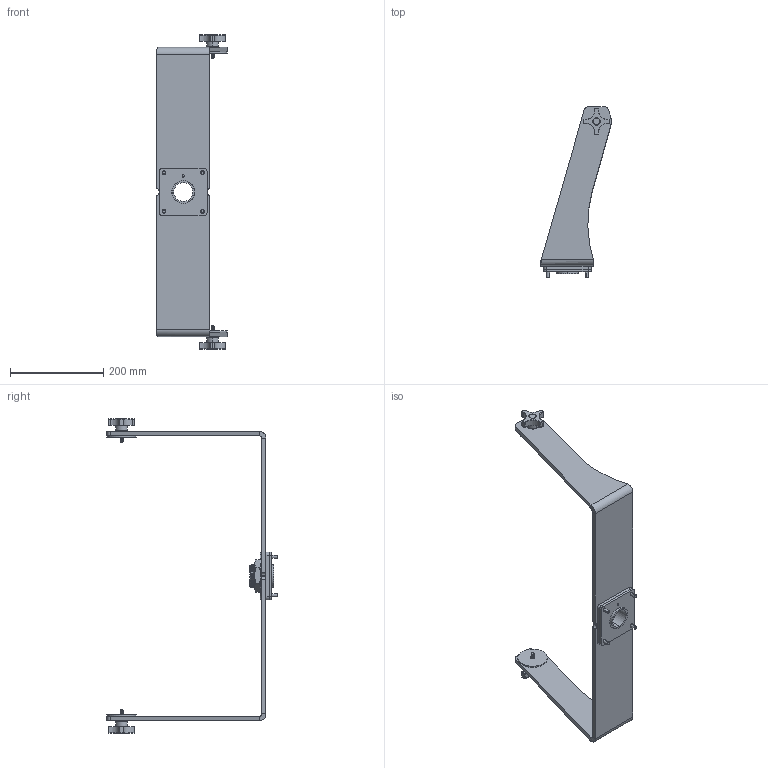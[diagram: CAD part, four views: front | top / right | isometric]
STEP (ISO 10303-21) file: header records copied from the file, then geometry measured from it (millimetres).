
FILE_DESCRIPTION (( 'STEP AP214' ), '1' );
FILE_NAME ('Pedestal and Benchtop Yoke for 23 inch Universal Mount Monitor, YB23.STEP', '2017-07-18T14:27:38', ( '' ), ( '' ), 'SwSTEP 2.0', 'SolidWorks 2017', '' );
FILE_SCHEMA (( 'AUTOMOTIVE_DESIGN' ));
Length unit declared in the file: inch
Products named in the file (12): Knob, 30053; Rubber Washer, 10177; Bushing, 30500; Nut, 30060; Washer, 10143; Screw, 30078_CR-FHMS 0.25-20x0.875x0.875-N; 9157K370_STD-WALL 304-304L SS THRD ONE END PIPE NIPPLE_9157K37; Bench Plate, 10105; 10105; Bearing Plate, 10078; All Yoke Configurations, YBxx_YK23; Pedestal and Benchtop Yoke for 23 inch Universal Mount Monitor, YB23
Assembly tree (17 placements, depth 3):
  Pedestal and Benchtop Yoke for 23 inch Universal Mount Monitor, YB23
    All Yoke Configurations, YBxx_YK23
    Bearing Plate, 10078
    Bench Plate, 10105
      10105
      9157K370_STD-WALL 304-304L SS THRD ONE END PIPE NIPPLE_9157K37
    Screw, 30078_CR-FHMS 0.25-20x0.875x0.875-N  x4
    Washer, 10143
    Nut, 30060
    Bushing, 30500  x2
    Rubber Washer, 10177  x2
    Knob, 30053  x2
Bounding box: 151.52 x 365.2 x 673.15 mm (x, y, z)
Volume: 1313518.1 mm3; surface area: 368031.8 mm2
Topology: 16 solids, 16 shells, 808 faces, 1799 edges, 1020 vertices
Faces by surface type: cylinder 344, cone 239, plane 128, torus 48, sphere 40, bspline 9
Entity records: 24007 total; most frequent: CARTESIAN_POINT 12628, DIRECTION 2319, ORIENTED_EDGE 2230, EDGE_CURVE 1115, AXIS2_PLACEMENT_3D 932, VERTEX_POINT 653, EDGE_LOOP 532, ADVANCED_FACE 488
